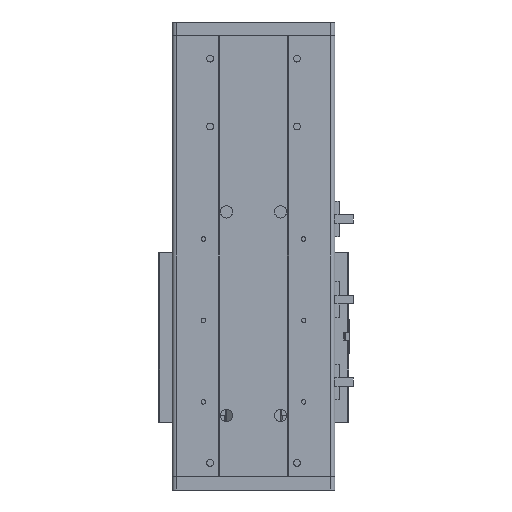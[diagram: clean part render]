
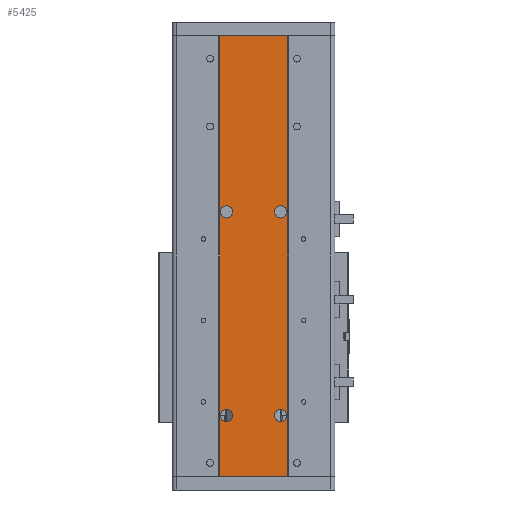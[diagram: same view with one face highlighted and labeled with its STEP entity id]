
A CAD part, front view. The second image highlights one B-rep face of the part: STEP entity #5425.
In plain terms, the highlighted planar face has unit normal (0, -1, 0).
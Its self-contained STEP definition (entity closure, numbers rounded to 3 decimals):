
#1316 = CARTESIAN_POINT ( 'NONE',  ( 85., 1., 0. ) ) ;
#1434 = FACE_OUTER_BOUND ( 'NONE', #133877, .T. ) ;
#1944 = EDGE_CURVE ( 'NONE', #113691, #102100, #89394, .T. ) ;
#1980 = DIRECTION ( 'NONE',  ( 0., 1., 0. ) ) ;
#4991 = FACE_BOUND ( 'NONE', #72086, .T. ) ;
#5425 = ADVANCED_FACE ( 'NONE', ( #4991, #121437, #61448, #31390, #1434 ), #13875, .F. ) ;
#8990 = ORIENTED_EDGE ( 'NONE', *, *, #113300, .T. ) ;
#9322 = CARTESIAN_POINT ( 'NONE',  ( 35., 1., 0. ) ) ;
#9328 = DIRECTION ( 'NONE',  ( 0., 1., 0. ) ) ;
#10617 = DIRECTION ( 'NONE',  ( 0., 1., 0. ) ) ;
#10686 = VERTEX_POINT ( 'NONE', #27924 ) ;
#10977 = ORIENTED_EDGE ( 'NONE', *, *, #88801, .T. ) ;
#12036 = VECTOR ( 'NONE', #75938, 1000. ) ;
#13875 = PLANE ( 'NONE',  #122479 ) ;
#14723 = ORIENTED_EDGE ( 'NONE', *, *, #83342, .T. ) ;
#14742 = LINE ( 'NONE', #130074, #124100 ) ;
#15725 = AXIS2_PLACEMENT_3D ( 'NONE', #78206, #10617, #89569 ) ;
#16190 = CARTESIAN_POINT ( 'NONE',  ( 35., 1., 0. ) ) ;
#18622 = LINE ( 'NONE', #1316, #135211 ) ;
#19882 = CARTESIAN_POINT ( 'NONE',  ( 40., 1., 45. ) ) ;
#21715 = CARTESIAN_POINT ( 'NONE',  ( 80., 1., 40.5 ) ) ;
#24241 = CARTESIAN_POINT ( 'NONE',  ( 80., 1., 190.5 ) ) ;
#25090 = DIRECTION ( 'NONE',  ( 0., 1., 0. ) ) ;
#25333 = CARTESIAN_POINT ( 'NONE',  ( 40., 1., 199.5 ) ) ;
#27924 = CARTESIAN_POINT ( 'NONE',  ( 35., 1., 325. ) ) ;
#29960 = VERTEX_POINT ( 'NONE', #76330 ) ;
#30860 = VECTOR ( 'NONE', #95141, 1000. ) ;
#31245 = DIRECTION ( 'NONE',  ( 0., 0., 1. ) ) ;
#31390 = FACE_BOUND ( 'NONE', #69661, .T. ) ;
#35579 = CARTESIAN_POINT ( 'NONE',  ( 40., 1., 195. ) ) ;
#35800 = CARTESIAN_POINT ( 'NONE',  ( 80., 1., 49.5 ) ) ;
#36417 = VERTEX_POINT ( 'NONE', #101470 ) ;
#36475 = DIRECTION ( 'NONE',  ( 0., 0., 1. ) ) ;
#36925 = ORIENTED_EDGE ( 'NONE', *, *, #115394, .F. ) ;
#38384 = VERTEX_POINT ( 'NONE', #86725 ) ;
#39538 = CARTESIAN_POINT ( 'NONE',  ( 80., 1., 45. ) ) ;
#40149 = ORIENTED_EDGE ( 'NONE', *, *, #42535, .T. ) ;
#40845 = ORIENTED_EDGE ( 'NONE', *, *, #53828, .T. ) ;
#41357 = DIRECTION ( 'NONE',  ( 0., 1., 0. ) ) ;
#41649 = VERTEX_POINT ( 'NONE', #35800 ) ;
#42535 = EDGE_CURVE ( 'NONE', #38384, #96228, #141788, .T. ) ;
#45520 = AXIS2_PLACEMENT_3D ( 'NONE', #19882, #98877, #31245 ) ;
#46978 = DIRECTION ( 'NONE',  ( 0., 0., 1. ) ) ;
#47188 = DIRECTION ( 'NONE',  ( 0., 0., 1. ) ) ;
#47369 = EDGE_LOOP ( 'NONE', ( #40149, #84891 ) ) ;
#49121 = CARTESIAN_POINT ( 'NONE',  ( 35., 1., 0. ) ) ;
#50877 = DIRECTION ( 'NONE',  ( 0., 0., 1. ) ) ;
#52010 = EDGE_CURVE ( 'NONE', #55475, #54674, #18622, .T. ) ;
#52786 = VERTEX_POINT ( 'NONE', #21715 ) ;
#53828 = EDGE_CURVE ( 'NONE', #52786, #41649, #79877, .T. ) ;
#54674 = VERTEX_POINT ( 'NONE', #70656 ) ;
#55475 = VERTEX_POINT ( 'NONE', #129040 ) ;
#57060 = AXIS2_PLACEMENT_3D ( 'NONE', #69580, #1980, #80910 ) ;
#57809 = AXIS2_PLACEMENT_3D ( 'NONE', #76907, #9328, #88256 ) ;
#61448 = FACE_BOUND ( 'NONE', #47369, .T. ) ;
#62062 = AXIS2_PLACEMENT_3D ( 'NONE', #92684, #25090, #104099 ) ;
#65411 = EDGE_CURVE ( 'NONE', #96228, #38384, #80395, .T. ) ;
#65736 = CIRCLE ( 'NONE', #57809, 4.5 ) ;
#69580 = CARTESIAN_POINT ( 'NONE',  ( 80., 1., 195. ) ) ;
#69661 = EDGE_LOOP ( 'NONE', ( #86900, #14723 ) ) ;
#70656 = CARTESIAN_POINT ( 'NONE',  ( 85., 1., 325. ) ) ;
#72086 = EDGE_LOOP ( 'NONE', ( #123716, #40845 ) ) ;
#72906 = DIRECTION ( 'NONE',  ( -1., 0., 0. ) ) ;
#74808 = CARTESIAN_POINT ( 'NONE',  ( 40., 1., 190.5 ) ) ;
#75938 = DIRECTION ( 'NONE',  ( 0., 0., 1. ) ) ;
#76330 = CARTESIAN_POINT ( 'NONE',  ( 40., 1., 49.5 ) ) ;
#76907 = CARTESIAN_POINT ( 'NONE',  ( 80., 1., 45. ) ) ;
#78206 = CARTESIAN_POINT ( 'NONE',  ( 40., 1., 45. ) ) ;
#79877 = CIRCLE ( 'NONE', #99455, 4.5 ) ;
#80395 = CIRCLE ( 'NONE', #62062, 4.5 ) ;
#80910 = DIRECTION ( 'NONE',  ( 0., 0., 1. ) ) ;
#83342 = EDGE_CURVE ( 'NONE', #102100, #113691, #135730, .T. ) ;
#84075 = EDGE_CURVE ( 'NONE', #36417, #29960, #117700, .T. ) ;
#84891 = ORIENTED_EDGE ( 'NONE', *, *, #65411, .T. ) ;
#86275 = AXIS2_PLACEMENT_3D ( 'NONE', #108951, #41357, #120299 ) ;
#86725 = CARTESIAN_POINT ( 'NONE',  ( 80., 1., 199.5 ) ) ;
#86900 = ORIENTED_EDGE ( 'NONE', *, *, #1944, .T. ) ;
#87887 = LINE ( 'NONE', #9322, #12036 ) ;
#88256 = DIRECTION ( 'NONE',  ( 0., 0., 1. ) ) ;
#88721 = VERTEX_POINT ( 'NONE', #49121 ) ;
#88801 = EDGE_CURVE ( 'NONE', #29960, #36417, #143960, .T. ) ;
#89394 = CIRCLE ( 'NONE', #86275, 4.5 ) ;
#89569 = DIRECTION ( 'NONE',  ( 0., 0., 1. ) ) ;
#91979 = ORIENTED_EDGE ( 'NONE', *, *, #84075, .T. ) ;
#92684 = CARTESIAN_POINT ( 'NONE',  ( 80., 1., 195. ) ) ;
#92787 = CARTESIAN_POINT ( 'NONE',  ( 35., 1., 0. ) ) ;
#95141 = DIRECTION ( 'NONE',  ( -1., 0., 0. ) ) ;
#96135 = EDGE_LOOP ( 'NONE', ( #10977, #91979 ) ) ;
#96228 = VERTEX_POINT ( 'NONE', #24241 ) ;
#98877 = DIRECTION ( 'NONE',  ( 0., 1., 0. ) ) ;
#99455 = AXIS2_PLACEMENT_3D ( 'NONE', #39538, #118471, #50877 ) ;
#101470 = CARTESIAN_POINT ( 'NONE',  ( 40., 1., 40.5 ) ) ;
#102100 = VERTEX_POINT ( 'NONE', #74808 ) ;
#102616 = AXIS2_PLACEMENT_3D ( 'NONE', #35579, #114559, #46978 ) ;
#104099 = DIRECTION ( 'NONE',  ( 0., 0., 1. ) ) ;
#104195 = DIRECTION ( 'NONE',  ( 0., 1., 0. ) ) ;
#108951 = CARTESIAN_POINT ( 'NONE',  ( 40., 1., 195. ) ) ;
#111338 = ORIENTED_EDGE ( 'NONE', *, *, #52010, .T. ) ;
#113300 = EDGE_CURVE ( 'NONE', #54674, #10686, #14742, .T. ) ;
#113691 = VERTEX_POINT ( 'NONE', #25333 ) ;
#114559 = DIRECTION ( 'NONE',  ( 0., 1., 0. ) ) ;
#115394 = EDGE_CURVE ( 'NONE', #88721, #10686, #87887, .T. ) ;
#117386 = LINE ( 'NONE', #16190, #30860 ) ;
#117700 = CIRCLE ( 'NONE', #15725, 4.5 ) ;
#118471 = DIRECTION ( 'NONE',  ( 0., 1., 0. ) ) ;
#120299 = DIRECTION ( 'NONE',  ( 0., 0., 1. ) ) ;
#121437 = FACE_BOUND ( 'NONE', #96135, .T. ) ;
#122479 = AXIS2_PLACEMENT_3D ( 'NONE', #92787, #104195, #36475 ) ;
#123716 = ORIENTED_EDGE ( 'NONE', *, *, #144606, .T. ) ;
#124088 = EDGE_CURVE ( 'NONE', #55475, #88721, #117386, .T. ) ;
#124100 = VECTOR ( 'NONE', #72906, 1000. ) ;
#125462 = ORIENTED_EDGE ( 'NONE', *, *, #124088, .F. ) ;
#129040 = CARTESIAN_POINT ( 'NONE',  ( 85., 1., 0. ) ) ;
#130074 = CARTESIAN_POINT ( 'NONE',  ( 35., 1., 325. ) ) ;
#133877 = EDGE_LOOP ( 'NONE', ( #8990, #36925, #125462, #111338 ) ) ;
#135211 = VECTOR ( 'NONE', #47188, 1000. ) ;
#135730 = CIRCLE ( 'NONE', #102616, 4.5 ) ;
#141788 = CIRCLE ( 'NONE', #57060, 4.5 ) ;
#143960 = CIRCLE ( 'NONE', #45520, 4.5 ) ;
#144606 = EDGE_CURVE ( 'NONE', #41649, #52786, #65736, .T. ) ;
